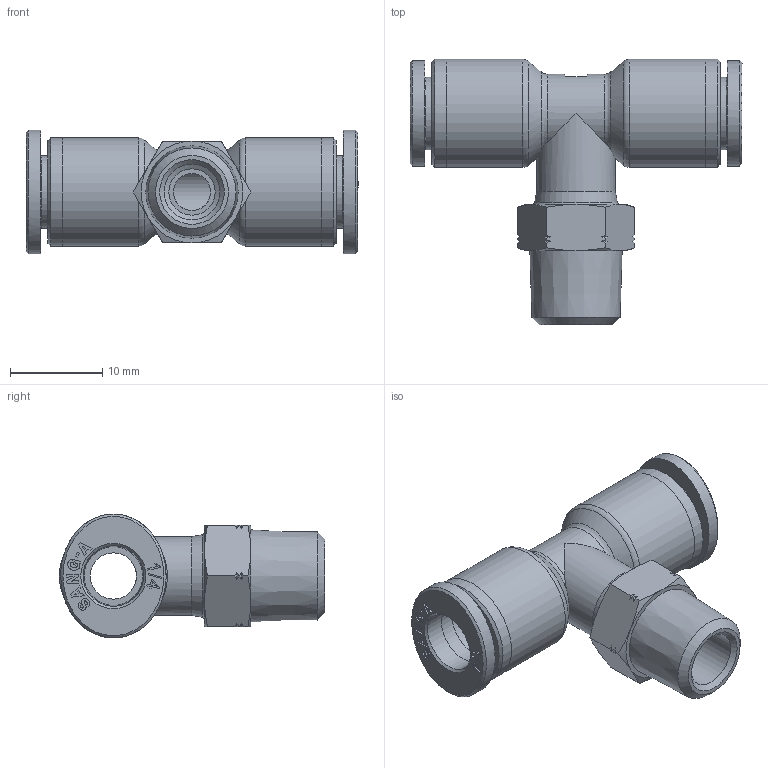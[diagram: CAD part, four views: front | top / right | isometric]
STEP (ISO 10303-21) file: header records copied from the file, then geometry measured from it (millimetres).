
FILE_DESCRIPTION((''),'2;1');
FILE_NAME('C:\Users\user0117\Desktop\김진일\G-FITTING INCH\1-4\G-FITTING INCH (STEP)\GPT 1_4-R01.stp','2020-04-23T14:13:35',('user0117'),(''),'Autodesk Inventor 2013','Autodesk Inventor 2013','');
FILE_SCHEMA(('AUTOMOTIVE_DESIGN { 1 0 10303 214 1 1 1 1 }'));
Length unit declared in the file: millimetre
Products named in the file (7): GPT 1_4-R01; GPL BODY 1-4 R01(BRASS); GPT 1_4 PLASTIC ASSY; GPT BODY 1-4(PLASTIC); G-COLLAR G1-4L; COLLAR G1-4L; SLEEVE G1-4
Assembly tree (7 placements, depth 4):
  GPT 1_4-R01
    GPL BODY 1-4 R01(BRASS)
    GPT 1_4 PLASTIC ASSY
      GPT BODY 1-4(PLASTIC)
      G-COLLAR G1-4L  x2
        COLLAR G1-4L
        SLEEVE G1-4
Bounding box: 35.9 x 28.7 x 13.39 mm (x, y, z)
Volume: 3301.9 mm3; surface area: 3978.1 mm2
Topology: 6 solids, 6 shells, 338 faces, 861 edges, 567 vertices
Faces by surface type: plane 207, cone 51, bspline 44, cylinder 31, torus 5
Full cylindrical faces by diameter (mm): 4 x1, 5 x3, 6 x1, 6.55 x6, 7.85 x2, 8.5 x1, 11.7 x4
Entity records: 6591 total; most frequent: CARTESIAN_POINT 1723, ORIENTED_EDGE 976, DIRECTION 927, EDGE_CURVE 488, VERTEX_POINT 336, AXIS2_PLACEMENT_3D 324, VECTOR 279, LINE 279
